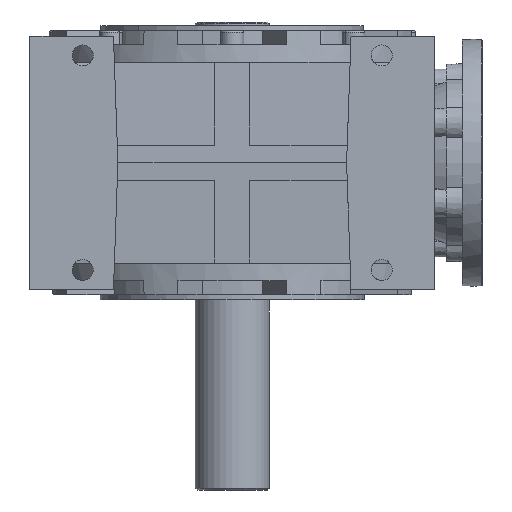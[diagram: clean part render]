
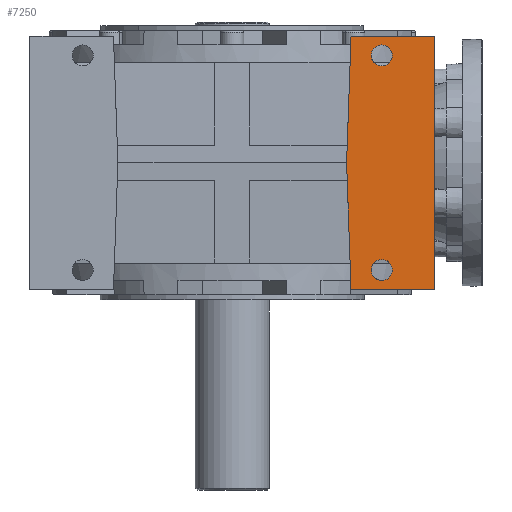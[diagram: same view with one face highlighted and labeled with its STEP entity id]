
A CAD part, front view. The second image highlights one B-rep face of the part: STEP entity #7250.
In plain terms, the highlighted planar face has unit normal (0, -1, 0).
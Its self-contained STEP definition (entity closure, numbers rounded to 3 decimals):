
#130 = AXIS2_PLACEMENT_3D ( 'NONE', #16571, #36107, #19691 ) ;
#158 = DIRECTION ( 'NONE',  ( 1., 0., 0. ) ) ;
#194 = AXIS2_PLACEMENT_3D ( 'NONE', #32263, #36618, #15136 ) ;
#931 = CIRCLE ( 'NONE', #194, 6. ) ;
#966 = VECTOR ( 'NONE', #11720, 1000. ) ;
#994 = DIRECTION ( 'NONE',  ( 1., 0., 0. ) ) ;
#1780 = EDGE_LOOP ( 'NONE', ( #2891, #37337 ) ) ;
#2891 = ORIENTED_EDGE ( 'NONE', *, *, #18488, .F. ) ;
#2902 = CARTESIAN_POINT ( 'NONE',  ( 67.514, -165., -72. ) ) ;
#3578 = DIRECTION ( 'NONE',  ( 0., -1., 0. ) ) ;
#3786 = LINE ( 'NONE', #23982, #42117 ) ;
#3803 = PLANE ( 'NONE',  #9121 ) ;
#5059 = CARTESIAN_POINT ( 'NONE',  ( 65., -165., 0. ) ) ;
#5809 = CIRCLE ( 'NONE', #130, 6. ) ;
#6923 = EDGE_CURVE ( 'NONE', #7265, #10187, #39138, .T. ) ;
#7066 = CARTESIAN_POINT ( 'NONE',  ( -115., -165., 72. ) ) ;
#7250 = ADVANCED_FACE ( 'NONE', ( #29175, #39566, #12051 ), #3803, .T. ) ;
#7265 = VERTEX_POINT ( 'NONE', #2902 ) ;
#8266 = EDGE_CURVE ( 'NONE', #11965, #21000, #14141, .T. ) ;
#8356 = ORIENTED_EDGE ( 'NONE', *, *, #16003, .T. ) ;
#9107 = EDGE_CURVE ( 'NONE', #10589, #7265, #14435, .T. ) ;
#9110 = CARTESIAN_POINT ( 'NONE',  ( 85., -165., 61. ) ) ;
#9121 = AXIS2_PLACEMENT_3D ( 'NONE', #20467, #3578, #26880 ) ;
#10187 = VERTEX_POINT ( 'NONE', #27600 ) ;
#10589 = VERTEX_POINT ( 'NONE', #15015 ) ;
#10745 = EDGE_LOOP ( 'NONE', ( #34726, #25587 ) ) ;
#11720 = DIRECTION ( 'NONE',  ( -0.035, 0., -0.999 ) ) ;
#11800 = EDGE_CURVE ( 'NONE', #39957, #43426, #931, .T. ) ;
#11965 = VERTEX_POINT ( 'NONE', #27052 ) ;
#12051 = FACE_OUTER_BOUND ( 'NONE', #41245, .T. ) ;
#12647 = CARTESIAN_POINT ( 'NONE',  ( 91., -165., 61. ) ) ;
#12666 = ORIENTED_EDGE ( 'NONE', *, *, #8266, .F. ) ;
#13962 = ORIENTED_EDGE ( 'NONE', *, *, #9107, .F. ) ;
#14141 = LINE ( 'NONE', #7066, #17670 ) ;
#14198 = VERTEX_POINT ( 'NONE', #26102 ) ;
#14435 = LINE ( 'NONE', #41500, #20589 ) ;
#14700 = CARTESIAN_POINT ( 'NONE',  ( 79., -165., -61. ) ) ;
#15015 = CARTESIAN_POINT ( 'NONE',  ( 115., -165., -72. ) ) ;
#15136 = DIRECTION ( 'NONE',  ( 1., 0., 0. ) ) ;
#16003 = EDGE_CURVE ( 'NONE', #10589, #21000, #3786, .T. ) ;
#16571 = CARTESIAN_POINT ( 'NONE',  ( 85., -165., 61. ) ) ;
#17670 = VECTOR ( 'NONE', #158, 1000. ) ;
#17813 = AXIS2_PLACEMENT_3D ( 'NONE', #21196, #31421, #994 ) ;
#18207 = LINE ( 'NONE', #5059, #966 ) ;
#18488 = EDGE_CURVE ( 'NONE', #43426, #39957, #27780, .T. ) ;
#18883 = CIRCLE ( 'NONE', #24508, 6. ) ;
#19651 = ORIENTED_EDGE ( 'NONE', *, *, #38658, .T. ) ;
#19691 = DIRECTION ( 'NONE',  ( 1., 0., 0. ) ) ;
#20467 = CARTESIAN_POINT ( 'NONE',  ( -115., -165., -78. ) ) ;
#20589 = VECTOR ( 'NONE', #38407, 1000. ) ;
#21000 = VERTEX_POINT ( 'NONE', #21097 ) ;
#21097 = CARTESIAN_POINT ( 'NONE',  ( 115., -165., 72. ) ) ;
#21196 = CARTESIAN_POINT ( 'NONE',  ( 85., -165., -61. ) ) ;
#22512 = DIRECTION ( 'NONE',  ( -0.035, 0., 0.999 ) ) ;
#23982 = CARTESIAN_POINT ( 'NONE',  ( 115., -165., -78. ) ) ;
#24508 = AXIS2_PLACEMENT_3D ( 'NONE', #9110, #33335, #36688 ) ;
#25399 = CARTESIAN_POINT ( 'NONE',  ( 65., -165., 0. ) ) ;
#25587 = ORIENTED_EDGE ( 'NONE', *, *, #31768, .F. ) ;
#26102 = CARTESIAN_POINT ( 'NONE',  ( 79., -165., 61. ) ) ;
#26880 = DIRECTION ( 'NONE',  ( 1., 0., 0. ) ) ;
#27052 = CARTESIAN_POINT ( 'NONE',  ( 67.514, -165., 72. ) ) ;
#27600 = CARTESIAN_POINT ( 'NONE',  ( 65., -165., 0. ) ) ;
#27780 = CIRCLE ( 'NONE', #17813, 6. ) ;
#28996 = VECTOR ( 'NONE', #22512, 1000. ) ;
#29175 = FACE_BOUND ( 'NONE', #10745, .T. ) ;
#30993 = ORIENTED_EDGE ( 'NONE', *, *, #6923, .F. ) ;
#31109 = DIRECTION ( 'NONE',  ( 0., 0., 1. ) ) ;
#31421 = DIRECTION ( 'NONE',  ( 0., -1., 0. ) ) ;
#31768 = EDGE_CURVE ( 'NONE', #14198, #42871, #18883, .T. ) ;
#32263 = CARTESIAN_POINT ( 'NONE',  ( 85., -165., -61. ) ) ;
#32380 = EDGE_CURVE ( 'NONE', #42871, #14198, #5809, .T. ) ;
#33335 = DIRECTION ( 'NONE',  ( 0., -1., 0. ) ) ;
#34726 = ORIENTED_EDGE ( 'NONE', *, *, #32380, .F. ) ;
#36107 = DIRECTION ( 'NONE',  ( 0., -1., 0. ) ) ;
#36618 = DIRECTION ( 'NONE',  ( 0., -1., 0. ) ) ;
#36688 = DIRECTION ( 'NONE',  ( 1., 0., 0. ) ) ;
#37337 = ORIENTED_EDGE ( 'NONE', *, *, #11800, .F. ) ;
#38407 = DIRECTION ( 'NONE',  ( -1., 0., 0. ) ) ;
#38658 = EDGE_CURVE ( 'NONE', #11965, #10187, #18207, .T. ) ;
#38914 = CARTESIAN_POINT ( 'NONE',  ( 91., -165., -61. ) ) ;
#39138 = LINE ( 'NONE', #25399, #28996 ) ;
#39566 = FACE_BOUND ( 'NONE', #1780, .T. ) ;
#39957 = VERTEX_POINT ( 'NONE', #14700 ) ;
#41245 = EDGE_LOOP ( 'NONE', ( #8356, #12666, #19651, #30993, #13962 ) ) ;
#41500 = CARTESIAN_POINT ( 'NONE',  ( 100., -165., -72. ) ) ;
#42117 = VECTOR ( 'NONE', #31109, 1000. ) ;
#42871 = VERTEX_POINT ( 'NONE', #12647 ) ;
#43426 = VERTEX_POINT ( 'NONE', #38914 ) ;
